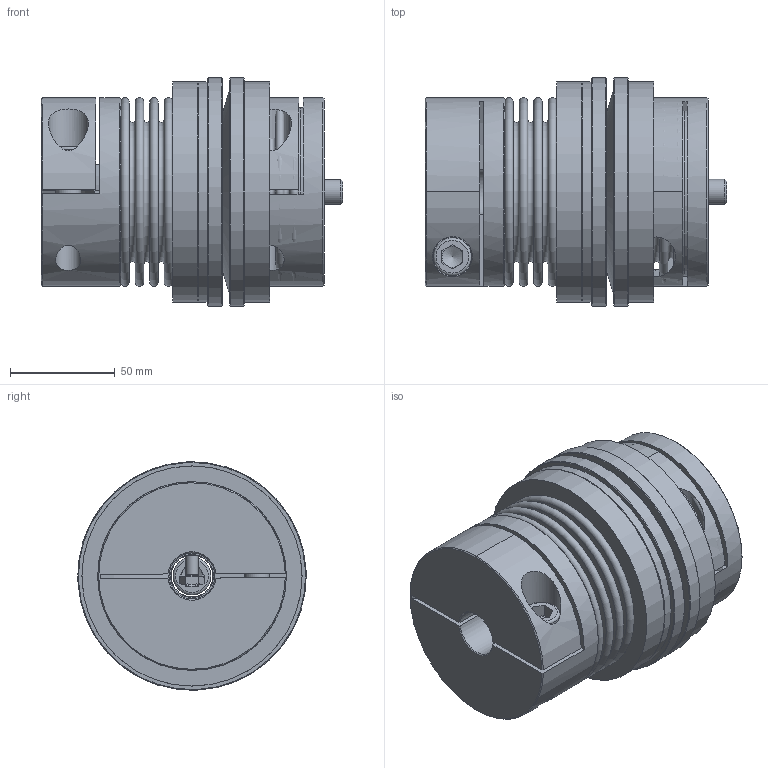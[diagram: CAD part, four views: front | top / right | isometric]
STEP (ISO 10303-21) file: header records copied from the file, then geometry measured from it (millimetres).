
FILE_DESCRIPTION( ( 'Unknown' ), '1' );
FILE_NAME( 'C:/Dokumente und Einstellungen/SKarpstein/Desktop/Korrigierte 3D Modelle/KBK-BKI-200-113.stp', 'Unknown', ( 'Unknown' ), ( 'Unknown' ), 'XStep 1.0', 'Unknown', ' ' );
FILE_SCHEMA( ( 'automotive_design' ) );
Length unit declared in the file: millimetre
Products named in the file (10): Assem1; Stellring 200; Druckring 200; KBK L-I-200 Grundkörper; Konusbuchse 200; din_en_24017_m6x25_0; Flansch BK200; KN200_Standard_2; Socket Head Cap Screw_DIN_DIN 912 M12 x 35 --- 35N_4; BK200_Standard_0
Bounding box: 143.95 x 109 x 109 mm (x, y, z)
Volume: 1046504.6 mm3; surface area: 375241.6 mm2
Topology: 23 solids, 23 shells, 558 faces, 1180 edges, 759 vertices
Faces by surface type: plane 253, cylinder 128, cone 126, torus 51
Full cylindrical faces by diameter (mm): 3.242 x6, 4.917 x18, 5.2 x12, 6 x7, 6.5 x12, 8.8 x7, 12 x4, 12.5 x2, 18 x2, 19 x2, 20 x4, 22 x2, 46 x2, 47 x2, 50 x4, 60 x2, 62 x2, 64 x2, 65 x2, 66 x4, 77 x2, 79.2 x4, 80.4 x4, 90 x4, 98 x2, 105 x4, 109 x2
Entity records: 6332 total; most frequent: CARTESIAN_POINT 1457, DIRECTION 989, ORIENTED_EDGE 660, AXIS2_PLACEMENT_3D 457, EDGE_LOOP 408, EDGE_CURVE 330, FACE_OUTER_BOUND 300, VERTEX_POINT 271
